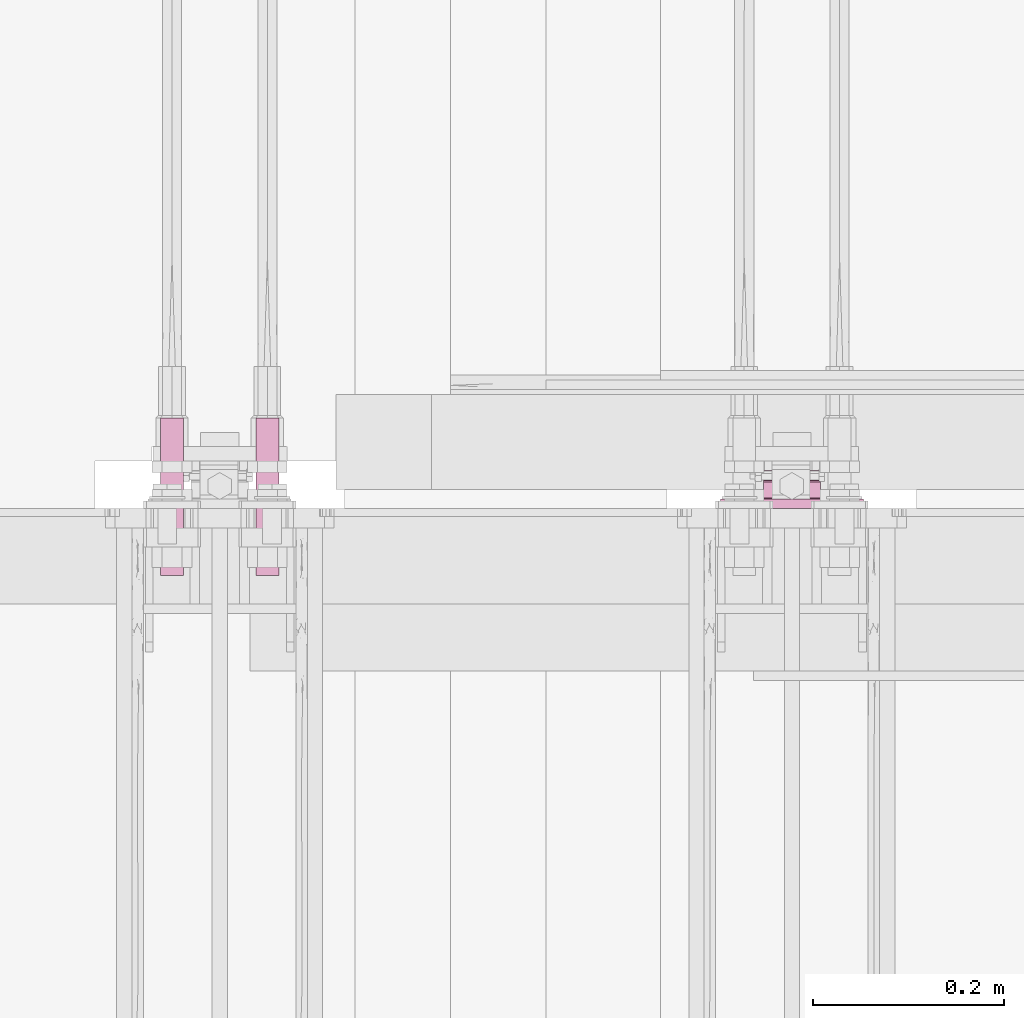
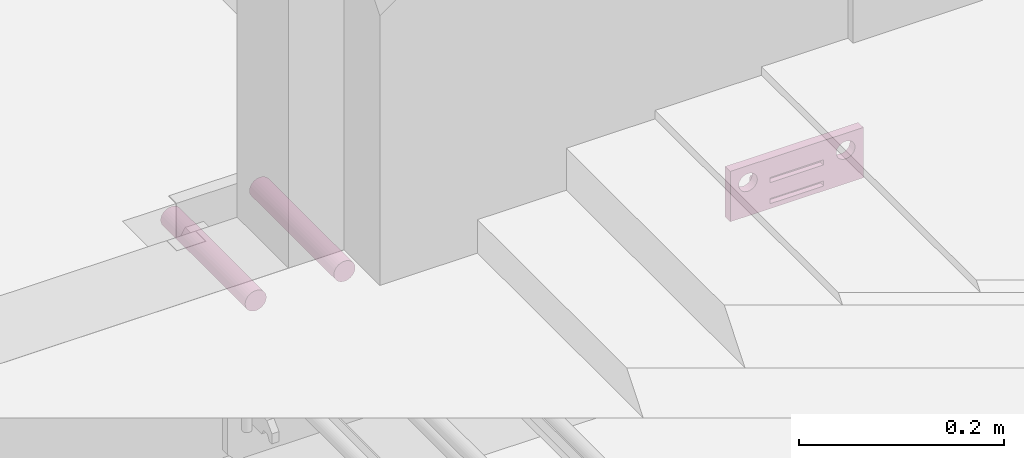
# One storey, part 13 of 17: 3 furnishings.
"""IFC2X3 building model written with IfcOpenShell, lengths in metres."""

import ifcopenshell
import ifcopenshell.guid

model = None  # the IFC model being written
_history = None  # IfcOwnerHistory: only IFC2X3 demands one
_inside = {}  # id of a spatial element -> (the spatial element, [elements in it])
_under = {}  # id of a project, library or spatial element -> (it, [spatial elements below it])
_declared = {}  # id of a project -> (the project, [libraries it declares])
_typed = {}  # id of a type object -> (the type object, [elements of that type])
_made_of = {}  # id of a material, layer set ... -> (it, [elements and type objects made of it])


def new_model(schema):
    """Start an empty IFC model of exactly this schema.

    Asked for "IFC4X3", IfcOpenShell would pick the latest addendum, in which some entities
    have other attributes; the version numbers below select the first issue.
    IFC2X3 requires an IfcOwnerHistory on every rooted entity: one is made here for all.
    """
    global model, _history
    if schema == "IFC4X3":
        model = ifcopenshell.file(schema_version=(4, 3, 0, 0))
    else:
        model = ifcopenshell.file(schema=schema)
    _inside.clear()
    _under.clear()
    _declared.clear()
    _typed.clear()
    _made_of.clear()
    _history = None
    if model.schema == "IFC2X3":
        org = make("IfcOrganization", Name="unknown")
        user = make(
            "IfcPersonAndOrganization",
            ThePerson=make("IfcPerson", FamilyName="unknown"),
            TheOrganization=org,
        )
        app = make(
            "IfcApplication",
            ApplicationDeveloper=org,
            Version="unknown",
            ApplicationFullName="unknown",
            ApplicationIdentifier="unknown",
        )
        _history = make(
            "IfcOwnerHistory",
            OwningUser=user,
            OwningApplication=app,
            ChangeAction="ADDED",
            CreationDate=0,
        )
    return model


def make(cls, **values):
    """One entity of the class cls with the attributes given. An attribute that is None is left unset."""
    return model.create_entity(
        cls, **{name: value for name, value in values.items() if value is not None}
    )


def entity(cls, *values):
    """Any entity or typed value of the class cls, its attributes in the order of the schema. None: left unset."""
    e = model.create_entity(cls)
    for i, value in enumerate(values):
        if value is not None:
            e[i] = value
    return e


def rooted(cls, **values):
    """An entity with a GlobalId (a new one), such as an element, a storey or a relation."""
    return make(cls, GlobalId=ifcopenshell.guid.new(), OwnerHistory=_history, **values)


def si_unit(unit_type, name, prefix=None):
    """IfcSIUnit, for example si_unit("LENGTHUNIT", "METRE", prefix="MILLI")."""
    return make("IfcSIUnit", UnitType=unit_type, Prefix=prefix, Name=name)


def converted_unit(unit_type, name, factor, base, dimensions=None, offset=None):
    """IfcConversionBasedUnit, such as the inch: factor (a typed value) times the base unit."""
    return make(
        "IfcConversionBasedUnit"
        if offset is None
        else "IfcConversionBasedUnitWithOffset",
        ConversionOffset=offset,
        Dimensions=None
        if dimensions is None
        else entity("IfcDimensionalExponents", *dimensions),
        UnitType=unit_type,
        Name=name,
        ConversionFactor=make(
            "IfcMeasureWithUnit", ValueComponent=factor, UnitComponent=base
        ),
    )


def derived_unit(unit_type, elements):
    """IfcDerivedUnit: a product of units, each with its exponent."""
    return make(
        "IfcDerivedUnit",
        Elements=[
            make("IfcDerivedUnitElement", Unit=unit, Exponent=power)
            for unit, power in elements
        ],
        UnitType=unit_type,
    )


def assignment(units):
    """IfcUnitAssignment: the units of a project."""
    return None if units is None else make("IfcUnitAssignment", Units=units)


def point(xyz):
    """IfcCartesianPoint."""
    return None if xyz is None else make("IfcCartesianPoint", Coordinates=xyz)


def direction(xyz):
    """IfcDirection."""
    return None if xyz is None else make("IfcDirection", DirectionRatios=xyz)


def frame(location, z_axis=None, x_axis=None):
    """IfcAxis2Placement3D, a coordinate frame: its origin and axes. An axis left out is left unset."""
    return make(
        "IfcAxis2Placement3D",
        Location=point(location),
        Axis=direction(z_axis),
        RefDirection=direction(x_axis),
    )


def frame_2d(location, x_axis=None):
    """IfcAxis2Placement2D, a coordinate frame in the plane: its origin and x axis."""
    return make(
        "IfcAxis2Placement2D", Location=point(location), RefDirection=direction(x_axis)
    )


def origin():
    """The frame at (0, 0, 0) with its axes left unset."""
    return frame((0.0, 0.0, 0.0))


def place(relative_to, where):
    """IfcLocalPlacement: puts the frame where relative to a parent placement (None: the world)."""
    return make(
        "IfcLocalPlacement", PlacementRelTo=relative_to, RelativePlacement=where
    )


def context(
    kind, dimensions, precision=None, world=None, true_north=None, identifier=None
):
    """IfcGeometricRepresentationContext, for example the 3D "Model" context."""
    return make(
        "IfcGeometricRepresentationContext",
        ContextIdentifier=identifier,
        ContextType=kind,
        CoordinateSpaceDimension=dimensions,
        Precision=precision,
        WorldCoordinateSystem=world,
        TrueNorth=true_north,
    )


def subcontext(parent, identifier, kind, view, scale=None):
    """IfcGeometricRepresentationSubContext, for example "Body" below "Model"."""
    return make(
        "IfcGeometricRepresentationSubContext",
        ContextIdentifier=identifier,
        ContextType=kind,
        ParentContext=parent,
        TargetScale=scale,
        TargetView=view,
    )


def project(units=None, contexts=None):
    """IfcProject with its units and contexts."""
    return rooted(
        "IfcProject",
        Name="project",
        RepresentationContexts=contexts,
        UnitsInContext=assignment(units),
    )


def spatial(cls, under=None, at=None, **own):
    """A site, building, storey or space (cls), placed at a placement, below another one or the project."""
    s = rooted(cls, ObjectPlacement=at, **own)
    if under is not None:
        _under.setdefault(under.id(), (under, []))[1].append(s)
    return s


def polyline(points):
    """IfcPolyline through the points."""
    return make("IfcPolyline", Points=[point(p) for p in points])


def circle_curve(where, radius):
    """IfcCircle in the frame where."""
    return make("IfcCircle", Position=where, Radius=radius)


def parameter(value):
    """IfcParameterValue: where a trimmed curve begins or ends, as a parameter of its basis curve."""
    return model.create_entity("IfcParameterValue", value)


def trimmed(basis, trim1, trim2, sense, master):
    """IfcTrimmedCurve: the piece of a basis curve between two trims."""
    return make(
        "IfcTrimmedCurve",
        BasisCurve=basis,
        Trim1=trim1,
        Trim2=trim2,
        SenseAgreement=sense,
        MasterRepresentation=master,
    )


def segment(curve, same_sense, transition):
    """IfcCompositeCurveSegment."""
    return make(
        "IfcCompositeCurveSegment",
        Transition=transition,
        SameSense=same_sense,
        ParentCurve=curve,
    )


def composite_curve(segments, self_intersect=None):
    """IfcCompositeCurve: segments joined end to end."""
    return make("IfcCompositeCurve", Segments=segments, SelfIntersect=self_intersect)


def profile(cls, at=None, kind="AREA", **sizes):
    """A parametric profile (cls). Its sizes go by their IFC names, for example OverallWidth=200.0."""
    return make(cls, ProfileType=kind, Position=at, **sizes)


def circle(**sizes):
    """IfcCircleProfileDef."""
    return profile("IfcCircleProfileDef", **sizes)


def outline(outer, holes=None, kind="AREA"):
    """IfcArbitraryClosedProfileDef: a profile drawn as a closed curve; with holes, ...WithVoids."""
    if holes is None:
        return make("IfcArbitraryClosedProfileDef", ProfileType=kind, OuterCurve=outer)
    return make(
        "IfcArbitraryProfileDefWithVoids",
        ProfileType=kind,
        OuterCurve=outer,
        InnerCurves=holes,
    )


def extrude(swept, where, along, depth):
    """IfcExtrudedAreaSolid: the profile swept, set in the frame where, extruded along a direction by depth."""
    return make(
        "IfcExtrudedAreaSolid",
        SweptArea=swept,
        Position=where,
        ExtrudedDirection=direction(along),
        Depth=depth,
    )


def shape(context_of_items, identifier, shape_type, items):
    """IfcShapeRepresentation: the items that make up one representation, for example the "Body"."""
    return make(
        "IfcShapeRepresentation",
        ContextOfItems=context_of_items,
        RepresentationIdentifier=identifier,
        RepresentationType=shape_type,
        Items=items,
    )


def source(mapping_origin, context_of_items, identifier, shape_type, items):
    """IfcRepresentationMap: a shape defined once, which mapped items show again and again."""
    return make(
        "IfcRepresentationMap",
        MappingOrigin=mapping_origin,
        MappedRepresentation=shape(context_of_items, identifier, shape_type, items),
    )


def transform(
    local_origin,
    x_axis=None,
    y_axis=None,
    z_axis=None,
    scale=None,
    scale2=None,
    scale3=None,
    uniform=True,
):
    """IfcCartesianTransformationOperator3D, or its non-uniform kind. x_axis, y_axis, z_axis: its Axis1, 2, 3."""
    if uniform:
        return make(
            "IfcCartesianTransformationOperator3D",
            Axis1=direction(x_axis),
            Axis2=direction(y_axis),
            LocalOrigin=point(local_origin),
            Scale=scale,
            Axis3=direction(z_axis),
        )
    return make(
        "IfcCartesianTransformationOperator3DnonUniform",
        Axis1=direction(x_axis),
        Axis2=direction(y_axis),
        LocalOrigin=point(local_origin),
        Scale=scale,
        Axis3=direction(z_axis),
        Scale2=scale2,
        Scale3=scale3,
    )


def mapped(mapping_source, mapping_target):
    """IfcMappedItem: shows the shape of a source again, moved by a transform."""
    return make(
        "IfcMappedItem", MappingSource=mapping_source, MappingTarget=mapping_target
    )


def material(Name=None, Category=None):
    """IfcMaterial."""
    return make("IfcMaterial", Name=Name, Category=Category)


def made_of(thing, what):
    """Note that an element or type object is made of a material, layer set ...; save() writes the relation."""
    if what is not None:
        _made_of.setdefault(what.id(), (what, []))[1].append(thing)
    return thing


def type_object(cls, material=None, **own):
    """A type object (cls), such as IfcWallType, which elements share."""
    return made_of(rooted(cls, **own), material)


def type_shapes(of_type, sources):
    """Give a type object the sources (RepresentationMaps) that its elements show as mapped items."""
    of_type.RepresentationMaps = sources


def element(
    cls,
    number,
    at=None,
    inside=None,
    cuts=None,
    type_object=None,
    material=None,
    context=None,
    identifier="Body",
    shape_type=None,
    held_by="IfcProductDefinitionShape",
    body=None,
    shapes=None,
    **own,
):
    """One element of the class cls, such as IfcWall. Its Tag is "e" and its number.

    at: its placement. inside: the storey or other place that contains it. cuts: it is an
    opening in that element (IfcRelVoidsElement). A single representation is given by context,
    identifier, shape_type and body (its items); several are given by shapes. held_by: the class
    of the entity that holds the representations. save() writes the other relations.
    """
    e = rooted(cls, Tag="e%d" % number, ObjectPlacement=at, **own)
    if body is not None:
        shapes = [shape(context, identifier, shape_type, body)]
    if shapes is not None:
        e.Representation = make(held_by, Representations=shapes)
    if inside is not None:
        _inside.setdefault(inside.id(), (inside, []))[1].append(e)
    if cuts is not None:
        rooted(
            "IfcRelVoidsElement", RelatingBuildingElement=cuts, RelatedOpeningElement=e
        )
    if type_object is not None:
        _typed.setdefault(type_object.id(), (type_object, []))[1].append(e)
    return made_of(e, material)


def aggregate(whole, parts):
    """IfcRelAggregates: a whole, such as a stair, and the parts it consists of."""
    return rooted("IfcRelAggregates", RelatingObject=whole, RelatedObjects=parts)


def save(model, path):
    """Write the relations noted so far, then the file.

    IfcRelAggregates (storeys below a building ...), IfcRelContainedInSpatialStructure (elements
    in a storey), IfcRelDefinesByType, IfcRelAssociatesMaterial and IfcRelDeclares: one each for
    every whole, place, type object, material and project.
    """
    for whole, parts in _under.values():
        aggregate(whole, parts)
    for where, things in _inside.values():
        rooted(
            "IfcRelContainedInSpatialStructure",
            RelatedElements=things,
            RelatingStructure=where,
        )
    for kind, things in _typed.values():
        rooted("IfcRelDefinesByType", RelatedObjects=things, RelatingType=kind)
    for what, things in _made_of.values():
        rooted("IfcRelAssociatesMaterial", RelatedObjects=things, RelatingMaterial=what)
    for by, libraries in _declared.values():
        rooted("IfcRelDeclares", RelatingContext=by, RelatedDefinitions=libraries)
    model.write(path)


model = new_model("IFC2X3")

# Units and contexts
model_context = context("Model", 3, precision=1e-05, world=origin(), true_north=direction((6.123031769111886e-17, 1.0)))
plan_context = context("Plan", 3, precision=1e-05, world=origin(), true_north=direction((6.123031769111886e-17, 1.0)))
body_context = subcontext(model_context, "Body", "Model", "MODEL_VIEW")
ifc_project = project(units=[si_unit("LENGTHUNIT", "METRE"), si_unit("AREAUNIT", "SQUARE_METRE"), converted_unit("PLANEANGLEUNIT", "DEGREE", entity("IfcPlaneAngleMeasure", 0.017453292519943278), si_unit("PLANEANGLEUNIT", "RADIAN"), dimensions=[0, 0, 0, 0, 0, 0, 0]), si_unit("VOLUMEUNIT", "CUBIC_METRE"), derived_unit("THERMALTRANSMITTANCEUNIT", [(si_unit("MASSUNIT", "GRAM", prefix="KILO"), 1), (si_unit("THERMODYNAMICTEMPERATUREUNIT", "KELVIN"), -1), (si_unit("TIMEUNIT", "SECOND"), -3)]), derived_unit("USERDEFINED", [(si_unit("MASSUNIT", "GRAM", prefix="KILO"), 1), (si_unit("THERMODYNAMICTEMPERATUREUNIT", "KELVIN"), -1), (si_unit("TIMEUNIT", "SECOND"), -2)]), derived_unit("THERMALRESISTANCEUNIT", [(si_unit("MASSUNIT", "GRAM", prefix="KILO"), -1), (si_unit("TIMEUNIT", "SECOND"), 3), (si_unit("THERMODYNAMICTEMPERATUREUNIT", "KELVIN"), 1)]), si_unit("PRESSUREUNIT", "PASCAL"), derived_unit("MASSDENSITYUNIT", [(si_unit("MASSUNIT", "GRAM", prefix="KILO"), 1), (si_unit("LENGTHUNIT", "METRE"), -3)]), derived_unit("VAPORPERMEABILITYUNIT", [(si_unit("LENGTHUNIT", "METRE"), -1), (si_unit("TIMEUNIT", "SECOND"), 1)]), derived_unit("USERDEFINED", [(si_unit("MASSUNIT", "GRAM", prefix="KILO"), 1), (si_unit("TIMEUNIT", "SECOND"), -3), (si_unit("LENGTHUNIT", "METRE"), 3), (si_unit("ELECTRICCURRENTUNIT", "AMPERE"), -2)])], contexts=[model_context, plan_context])

# Site, building, storey
site_placement = place(None, origin())
site = spatial("IfcSite", under=ifc_project, at=site_placement, Name="Default", CompositionType="ELEMENT")
building_placement = place(site_placement, origin())
building = spatial("IfcBuilding", under=site, at=building_placement, CompositionType="ELEMENT")
storey_placement = place(building_placement, origin())
storey = spatial("IfcBuildingStorey", under=building, at=storey_placement, Name="L0", CompositionType="ELEMENT", Elevation=0.0)

# Furnishings
ifc_material = material(Name="REC_Acero, S 275JR (Zincado)")
furniture_type_1 = type_object("IfcFurnitureType", Name="REC_FBAIGCEQ:FBAIGCEQ", AssemblyPlace="NOTDEFINED", material=ifc_material)
shared_shape_1 = source(origin(), body_context, "Body", "SweptSolid", [
    extrude(outline(composite_curve([segment(polyline([(-0.005276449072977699, -0.016578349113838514), (0.013723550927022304, -0.016578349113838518)]), True, "CONTINUOUS"), segment(polyline([(0.01372355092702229, -0.016578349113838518), (0.013723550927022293, -0.010578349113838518)]), True, "CONTINUOUS"), segment(polyline([(0.013723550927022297, -0.010578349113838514), (0.0197235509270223, -0.010578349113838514)]), True, "CONTINUOUS"), segment(polyline([(0.0197235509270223, -0.010578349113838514), (0.0197235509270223, -0.006578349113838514)]), True, "CONTINUOUS"), segment(polyline([(0.019723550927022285, -0.00657834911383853), (0.014744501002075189, -0.005535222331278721)]), True, "CONTINUOUS"), segment(trimmed(circle_curve(frame_2d((0.014436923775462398, -0.007003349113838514), x_axis=(-1.0, 0.0)), 0.0015000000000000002), [parameter(258.1674870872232)], [parameter(288.1948723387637)], True, "PARAMETER"), True, "CONTINUOUS"), segment(trimmed(circle_curve(frame_2d((0.007723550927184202, 0.013421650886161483), x_axis=(-1.0, 0.0)), 0.02), [parameter(71.80512766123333)], [parameter(108.1948723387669)], True, "PARAMETER"), False, "CONTINUOUS"), segment(polyline([(0.0014785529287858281, -0.005578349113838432), (-0.003149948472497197, -0.004057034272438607)]), True, "CONTINUOUS"), segment(trimmed(circle_curve(frame_2d((-0.0012764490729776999, 0.001642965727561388), x_axis=(-1.0, 0.0)), 0.006000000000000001), [parameter(0.0)], [parameter(71.80512766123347)], True, "PARAMETER"), False, "CONTINUOUS"), segment(polyline([(-0.007276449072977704, 0.0016429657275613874), (-0.007276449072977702, 0.00875220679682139)]), True, "CONTINUOUS"), segment(trimmed(circle_curve(frame_2d((-0.004276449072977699, 0.008752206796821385), x_axis=(-1.0, 0.0)), 0.0030000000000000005), [parameter(290.0)], [parameter(0.0)], True, "PARAMETER"), False, "CONTINUOUS"), segment(polyline([(-0.005302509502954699, 0.011571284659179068), (-0.0015924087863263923, 0.012921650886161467)]), True, "CONTINUOUS"), segment(trimmed(circle_curve(frame_2d((-0.0022764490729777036, 0.014801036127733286), x_axis=(-1.0, 0.0)), 0.002), [parameter(109.99999999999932)], [parameter(180.0000000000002)], True, "PARAMETER"), True, "CONTINUOUS"), segment(polyline([(-0.00027644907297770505, 0.014801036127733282), (-0.0002764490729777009, 0.019421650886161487)]), True, "CONTINUOUS"), segment(trimmed(circle_curve(frame_2d((-0.004276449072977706, 0.019421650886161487), x_axis=(-1.0, 0.0)), 0.004), [parameter(179.9999999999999)], [parameter(269.9999999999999)], True, "PARAMETER"), True, "CONTINUOUS"), segment(polyline([(-0.004276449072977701, 0.023421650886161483), (-0.017276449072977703, 0.023421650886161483)]), True, "CONTINUOUS"), segment(polyline([(-0.017276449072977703, 0.023421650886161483), (-0.0172764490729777, -0.006578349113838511)]), True, "CONTINUOUS"), segment(polyline([(-0.017276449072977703, -0.006578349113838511), (-0.0112764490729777, -0.006578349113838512)]), True, "CONTINUOUS"), segment(polyline([(-0.011276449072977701, -0.006578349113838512), (-0.011276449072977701, -0.010578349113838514)]), True, "CONTINUOUS"), segment(polyline([(-0.011276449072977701, -0.010578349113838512), (-0.005276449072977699, -0.01057834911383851)]), True, "CONTINUOUS"), segment(polyline([(-0.005276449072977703, -0.010578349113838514), (-0.0052764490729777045, -0.016578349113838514)]), True, "CONTINUOUS")], self_intersect=False)), frame((0.0, 0.01727644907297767, 0.01657834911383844), z_axis=(1.0, 0.0, 0.0), x_axis=(0.0, 1.0, 0.0)), (0.0, 0.0, 1.0), 0.015),
    extrude(outline(composite_curve([segment(polyline([(-0.005276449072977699, -0.016578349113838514), (0.013723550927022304, -0.016578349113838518)]), True, "CONTINUOUS"), segment(polyline([(0.01372355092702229, -0.016578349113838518), (0.013723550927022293, -0.010578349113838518)]), True, "CONTINUOUS"), segment(polyline([(0.013723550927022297, -0.010578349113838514), (0.0197235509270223, -0.010578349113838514)]), True, "CONTINUOUS"), segment(polyline([(0.0197235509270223, -0.010578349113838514), (0.0197235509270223, -0.006578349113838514)]), True, "CONTINUOUS"), segment(polyline([(0.019723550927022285, -0.00657834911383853), (0.014744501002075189, -0.005535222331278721)]), True, "CONTINUOUS"), segment(trimmed(circle_curve(frame_2d((0.014436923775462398, -0.007003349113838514), x_axis=(-1.0, 0.0)), 0.0015000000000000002), [parameter(258.1674870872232)], [parameter(288.1948723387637)], True, "PARAMETER"), True, "CONTINUOUS"), segment(trimmed(circle_curve(frame_2d((0.007723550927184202, 0.013421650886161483), x_axis=(-1.0, 0.0)), 0.02), [parameter(71.80512766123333)], [parameter(108.1948723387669)], True, "PARAMETER"), False, "CONTINUOUS"), segment(polyline([(0.0014785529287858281, -0.005578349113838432), (-0.003149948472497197, -0.004057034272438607)]), True, "CONTINUOUS"), segment(trimmed(circle_curve(frame_2d((-0.0012764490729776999, 0.001642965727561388), x_axis=(-1.0, 0.0)), 0.006000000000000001), [parameter(0.0)], [parameter(71.80512766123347)], True, "PARAMETER"), False, "CONTINUOUS"), segment(polyline([(-0.007276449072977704, 0.0016429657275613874), (-0.007276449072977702, 0.00875220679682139)]), True, "CONTINUOUS"), segment(trimmed(circle_curve(frame_2d((-0.004276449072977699, 0.008752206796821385), x_axis=(-1.0, 0.0)), 0.0030000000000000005), [parameter(290.0)], [parameter(0.0)], True, "PARAMETER"), False, "CONTINUOUS"), segment(polyline([(-0.005302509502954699, 0.011571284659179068), (-0.0015924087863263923, 0.012921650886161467)]), True, "CONTINUOUS"), segment(trimmed(circle_curve(frame_2d((-0.0022764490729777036, 0.014801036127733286), x_axis=(-1.0, 0.0)), 0.002), [parameter(109.99999999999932)], [parameter(180.0000000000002)], True, "PARAMETER"), True, "CONTINUOUS"), segment(polyline([(-0.00027644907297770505, 0.014801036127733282), (-0.0002764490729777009, 0.019421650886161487)]), True, "CONTINUOUS"), segment(trimmed(circle_curve(frame_2d((-0.004276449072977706, 0.019421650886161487), x_axis=(-1.0, 0.0)), 0.004), [parameter(179.9999999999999)], [parameter(269.9999999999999)], True, "PARAMETER"), True, "CONTINUOUS"), segment(polyline([(-0.004276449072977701, 0.023421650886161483), (-0.017276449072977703, 0.023421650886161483)]), True, "CONTINUOUS"), segment(polyline([(-0.017276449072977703, 0.023421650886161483), (-0.0172764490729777, -0.006578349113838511)]), True, "CONTINUOUS"), segment(polyline([(-0.017276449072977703, -0.006578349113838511), (-0.0112764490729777, -0.006578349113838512)]), True, "CONTINUOUS"), segment(polyline([(-0.011276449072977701, -0.006578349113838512), (-0.011276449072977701, -0.010578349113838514)]), True, "CONTINUOUS"), segment(polyline([(-0.011276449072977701, -0.010578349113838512), (-0.005276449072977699, -0.01057834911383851)]), True, "CONTINUOUS"), segment(polyline([(-0.005276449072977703, -0.010578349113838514), (-0.0052764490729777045, -0.016578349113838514)]), True, "CONTINUOUS")], self_intersect=False)), frame((-0.030000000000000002, 0.01727644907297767, 0.01657834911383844), z_axis=(1.0, 0.0, 0.0), x_axis=(0.0, 1.0, 0.0)), (0.0, 0.0, 1.0), 0.015),
    extrude(outline(composite_curve([segment(polyline([(-0.005276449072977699, -0.016578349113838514), (0.013723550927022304, -0.016578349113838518)]), True, "CONTINUOUS"), segment(polyline([(0.01372355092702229, -0.016578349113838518), (0.013723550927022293, -0.010578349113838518)]), True, "CONTINUOUS"), segment(polyline([(0.013723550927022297, -0.010578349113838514), (0.0197235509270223, -0.010578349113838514)]), True, "CONTINUOUS"), segment(polyline([(0.0197235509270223, -0.010578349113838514), (0.0197235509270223, -0.006578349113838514)]), True, "CONTINUOUS"), segment(polyline([(0.019723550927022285, -0.00657834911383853), (0.014744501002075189, -0.005535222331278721)]), True, "CONTINUOUS"), segment(trimmed(circle_curve(frame_2d((0.014436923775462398, -0.007003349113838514), x_axis=(-1.0, 0.0)), 0.0015000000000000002), [parameter(258.1674870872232)], [parameter(288.1948723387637)], True, "PARAMETER"), True, "CONTINUOUS"), segment(trimmed(circle_curve(frame_2d((0.007723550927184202, 0.013421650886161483), x_axis=(-1.0, 0.0)), 0.02), [parameter(71.80512766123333)], [parameter(108.1948723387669)], True, "PARAMETER"), False, "CONTINUOUS"), segment(polyline([(0.0014785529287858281, -0.005578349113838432), (-0.003149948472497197, -0.004057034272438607)]), True, "CONTINUOUS"), segment(trimmed(circle_curve(frame_2d((-0.0012764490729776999, 0.001642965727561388), x_axis=(-1.0, 0.0)), 0.006000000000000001), [parameter(0.0)], [parameter(71.80512766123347)], True, "PARAMETER"), False, "CONTINUOUS"), segment(polyline([(-0.007276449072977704, 0.0016429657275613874), (-0.007276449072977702, 0.00875220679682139)]), True, "CONTINUOUS"), segment(trimmed(circle_curve(frame_2d((-0.004276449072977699, 0.008752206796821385), x_axis=(-1.0, 0.0)), 0.0030000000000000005), [parameter(290.0)], [parameter(0.0)], True, "PARAMETER"), False, "CONTINUOUS"), segment(polyline([(-0.005302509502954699, 0.011571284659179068), (-0.0015924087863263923, 0.012921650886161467)]), True, "CONTINUOUS"), segment(trimmed(circle_curve(frame_2d((-0.0022764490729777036, 0.014801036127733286), x_axis=(-1.0, 0.0)), 0.002), [parameter(109.99999999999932)], [parameter(180.0000000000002)], True, "PARAMETER"), True, "CONTINUOUS"), segment(polyline([(-0.00027644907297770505, 0.014801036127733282), (-0.0002764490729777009, 0.019421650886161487)]), True, "CONTINUOUS"), segment(trimmed(circle_curve(frame_2d((-0.004276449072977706, 0.019421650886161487), x_axis=(-1.0, 0.0)), 0.004), [parameter(179.9999999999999)], [parameter(269.9999999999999)], True, "PARAMETER"), True, "CONTINUOUS"), segment(polyline([(-0.004276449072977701, 0.023421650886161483), (-0.017276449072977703, 0.023421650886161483)]), True, "CONTINUOUS"), segment(polyline([(-0.017276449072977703, 0.023421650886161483), (-0.0172764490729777, -0.006578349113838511)]), True, "CONTINUOUS"), segment(polyline([(-0.017276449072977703, -0.006578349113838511), (-0.0112764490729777, -0.006578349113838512)]), True, "CONTINUOUS"), segment(polyline([(-0.011276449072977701, -0.006578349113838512), (-0.011276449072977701, -0.010578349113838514)]), True, "CONTINUOUS"), segment(polyline([(-0.011276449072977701, -0.010578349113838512), (-0.005276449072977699, -0.01057834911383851)]), True, "CONTINUOUS"), segment(polyline([(-0.005276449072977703, -0.010578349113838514), (-0.0052764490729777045, -0.016578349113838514)]), True, "CONTINUOUS")], self_intersect=False)), frame((0.015000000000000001, 0.01727644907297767, 0.01657834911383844), z_axis=(1.0, 0.0, 0.0), x_axis=(0.0, 1.0, 0.0)), (0.0, 0.0, 1.0), 0.015),
    extrude(outline(composite_curve([segment(polyline([(-0.005276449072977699, -0.016578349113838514), (0.013723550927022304, -0.016578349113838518)]), True, "CONTINUOUS"), segment(polyline([(0.01372355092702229, -0.016578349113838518), (0.013723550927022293, -0.010578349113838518)]), True, "CONTINUOUS"), segment(polyline([(0.013723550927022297, -0.010578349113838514), (0.0197235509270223, -0.010578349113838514)]), True, "CONTINUOUS"), segment(polyline([(0.0197235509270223, -0.010578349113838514), (0.0197235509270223, -0.006578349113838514)]), True, "CONTINUOUS"), segment(polyline([(0.019723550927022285, -0.00657834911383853), (0.014744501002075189, -0.005535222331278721)]), True, "CONTINUOUS"), segment(trimmed(circle_curve(frame_2d((0.014436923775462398, -0.007003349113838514), x_axis=(-1.0, 0.0)), 0.0015000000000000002), [parameter(258.1674870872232)], [parameter(288.1948723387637)], True, "PARAMETER"), True, "CONTINUOUS"), segment(trimmed(circle_curve(frame_2d((0.007723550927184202, 0.013421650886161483), x_axis=(-1.0, 0.0)), 0.02), [parameter(71.80512766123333)], [parameter(108.1948723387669)], True, "PARAMETER"), False, "CONTINUOUS"), segment(polyline([(0.0014785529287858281, -0.005578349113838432), (-0.003149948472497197, -0.004057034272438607)]), True, "CONTINUOUS"), segment(trimmed(circle_curve(frame_2d((-0.0012764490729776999, 0.001642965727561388), x_axis=(-1.0, 0.0)), 0.006000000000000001), [parameter(0.0)], [parameter(71.80512766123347)], True, "PARAMETER"), False, "CONTINUOUS"), segment(polyline([(-0.007276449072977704, 0.0016429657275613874), (-0.007276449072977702, 0.00875220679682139)]), True, "CONTINUOUS"), segment(trimmed(circle_curve(frame_2d((-0.004276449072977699, 0.008752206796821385), x_axis=(-1.0, 0.0)), 0.0030000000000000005), [parameter(290.0)], [parameter(0.0)], True, "PARAMETER"), False, "CONTINUOUS"), segment(polyline([(-0.005302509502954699, 0.011571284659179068), (-0.0015924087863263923, 0.012921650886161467)]), True, "CONTINUOUS"), segment(trimmed(circle_curve(frame_2d((-0.0022764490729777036, 0.014801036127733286), x_axis=(-1.0, 0.0)), 0.002), [parameter(109.99999999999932)], [parameter(180.0000000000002)], True, "PARAMETER"), True, "CONTINUOUS"), segment(polyline([(-0.00027644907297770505, 0.014801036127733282), (-0.0002764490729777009, 0.019421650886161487)]), True, "CONTINUOUS"), segment(trimmed(circle_curve(frame_2d((-0.004276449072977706, 0.019421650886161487), x_axis=(-1.0, 0.0)), 0.004), [parameter(179.9999999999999)], [parameter(269.9999999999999)], True, "PARAMETER"), True, "CONTINUOUS"), segment(polyline([(-0.004276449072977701, 0.023421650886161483), (-0.017276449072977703, 0.023421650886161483)]), True, "CONTINUOUS"), segment(polyline([(-0.017276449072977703, 0.023421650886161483), (-0.0172764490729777, -0.006578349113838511)]), True, "CONTINUOUS"), segment(polyline([(-0.017276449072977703, -0.006578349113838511), (-0.0112764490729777, -0.006578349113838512)]), True, "CONTINUOUS"), segment(polyline([(-0.011276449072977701, -0.006578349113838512), (-0.011276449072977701, -0.010578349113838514)]), True, "CONTINUOUS"), segment(polyline([(-0.011276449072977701, -0.010578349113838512), (-0.005276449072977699, -0.01057834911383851)]), True, "CONTINUOUS"), segment(polyline([(-0.005276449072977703, -0.010578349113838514), (-0.0052764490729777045, -0.016578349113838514)]), True, "CONTINUOUS")], self_intersect=False)), frame((-0.015000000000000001, 0.01727644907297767, 0.01657834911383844), z_axis=(1.0, 0.0, 0.0), x_axis=(0.0, 1.0, 0.0)), (0.0, 0.0, 1.0), 0.015),
    extrude(outline(polyline([(-0.03, -0.07500000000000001), (0.03, -0.07500000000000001), (0.03, 0.07500000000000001), (-0.03, 0.07500000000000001), (-0.03, -0.07500000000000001)]), holes=[polyline([(0.02415000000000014, -0.030149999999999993), (-0.007149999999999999, -0.030149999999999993), (-0.007149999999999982, 0.03015000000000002), (0.024150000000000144, 0.030150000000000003), (0.02415000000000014, -0.030149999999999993)]), composite_curve([segment(trimmed(circle_curve(frame_2d((-0.010000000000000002, 0.055), x_axis=(0.0, 1.0)), 0.0105), [parameter(179.9999999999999)], [parameter(359.99999999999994)], True, "PARAMETER"), False, "CONTINUOUS"), segment(trimmed(circle_curve(frame_2d((-0.010000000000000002, 0.055), x_axis=(0.0, 1.0)), 0.0105), [parameter(0.0)], [parameter(180.00000000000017)], True, "PARAMETER"), False, "CONTINUOUS")], self_intersect=False), composite_curve([segment(trimmed(circle_curve(frame_2d((-0.010000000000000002, -0.055), x_axis=(0.0, 1.0)), 0.0105), [parameter(179.9999999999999)], [parameter(359.99999999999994)], True, "PARAMETER"), False, "CONTINUOUS"), segment(trimmed(circle_curve(frame_2d((-0.010000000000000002, -0.055), x_axis=(0.0, 1.0)), 0.0105), [parameter(0.0)], [parameter(180.00000000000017)], True, "PARAMETER"), False, "CONTINUOUS")], self_intersect=False)]), frame((0.0, 0.029999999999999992, 0.0), z_axis=(0.0, 0.0, 1.0), x_axis=(0.0, -1.0, 0.0)), (0.0, 0.0, 1.0), 0.01),
])
type_shapes(furniture_type_1, [shared_shape_1])
furnishing_placement = place(storey_placement, frame((6.985760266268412, 14.794530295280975, -0.20000000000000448), z_axis=(0.0, 1.0, 0.0), x_axis=(-1.0, 0.0, 0.0)))
element("IfcFurnishingElement", 1, at=furnishing_placement, inside=storey, type_object=furniture_type_1, material=ifc_material, Name="REC_FBAIGCEQ:FBAIGCEQ", ObjectType="REC_FBAIGCEQ:FBAIGCEQ", context=body_context, shape_type="MappedRepresentation", body=[
    mapped(shared_shape_1, transform((0.0, 0.0, 0.0), scale=1.0)),
])
furniture_type_2 = type_object("IfcFurnitureType", Name="REC__VRM24165C88EQM:VRM24165C88EQM", AssemblyPlace="NOTDEFINED", material=ifc_material)
shared_shape_2 = source(origin(), body_context, "Body", "SweptSolid", [
    extrude(circle(Radius=0.012000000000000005, at=frame_2d((0.0, -1.9386534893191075e-17), x_axis=(1.0, 0.0))), origin(), (0.0, 0.0, 1.0), 0.165),
])
type_shapes(furniture_type_2, [shared_shape_2])
for number, where, z_axis, x_axis in (
    (2, (6.335720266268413, 14.889530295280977, -0.05000000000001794), (0.0, -1.0, 0.0), (1.0, 0.0, 0.0)),
    (3, (6.435720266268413, 14.889530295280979, -0.05000000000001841), (0.0, -1.0, 0.0), (1.0, 0.0, 0.0)),
):
    element("IfcFurnishingElement", number, at=place(storey_placement, frame(where, z_axis=z_axis, x_axis=x_axis)), inside=storey, type_object=furniture_type_2, material=ifc_material, Name="REC__VRM24165C88EQM:VRM24165C88EQM", ObjectType="REC__VRM24165C88EQM:VRM24165C88EQM", context=body_context, shape_type="MappedRepresentation", body=[
        mapped(shared_shape_2, transform((0.0, 0.0, 0.0), scale=1.0)),
    ])

save(model, "model.ifc")
